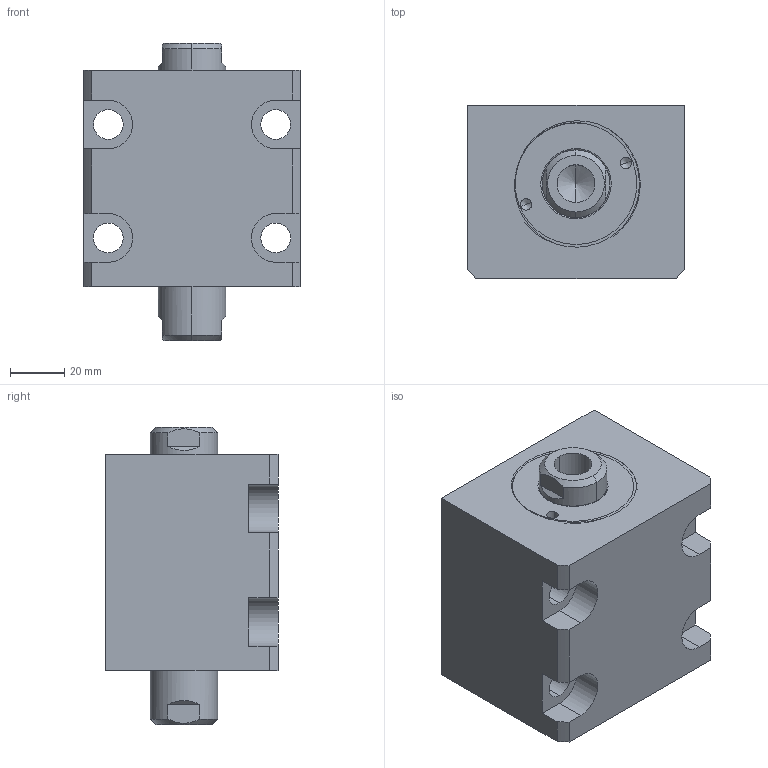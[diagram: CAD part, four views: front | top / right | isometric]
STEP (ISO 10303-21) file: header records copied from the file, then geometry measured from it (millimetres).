
FILE_DESCRIPTION (( 'STEP AP214' ), '1' );
FILE_NAME ('chtb-lwm40x10n_asm.STEP', '2018-05-30T07:57:01', ( 'Windows' ), ( 'Microsoft' ), 'SwSTEP 2.0', 'SolidWorks 2015', '' );
FILE_SCHEMA (( 'AUTOMOTIVE_DESIGN' ));
Length unit declared in the file: millimetre
Products named in the file (4): CHTB-SD40QG; CHTB-SW40X10NHSG; CHTB-LWM40X10NBT; chtb-lwm40x10n_asm
Assembly tree (3 placements, depth 2):
  chtb-lwm40x10n_asm
    CHTB-LWM40X10NBT
    CHTB-SW40X10NHSG
    CHTB-SD40QG
Bounding box: 80 x 64 x 110 mm (x, y, z)
Volume: 372706.9 mm3; surface area: 74017.1 mm2
Topology: 3 solids, 3 shells, 155 faces, 423 edges, 278 vertices
Faces by surface type: cylinder 74, plane 42, bspline 14, cone 13, torus 12
Entity records: 10121 total; most frequent: CARTESIAN_POINT 6099, ORIENTED_EDGE 826, DIRECTION 764, EDGE_CURVE 413, AXIS2_PLACEMENT_3D 308, VERTEX_POINT 278, EDGE_LOOP 185, CIRCLE 161
